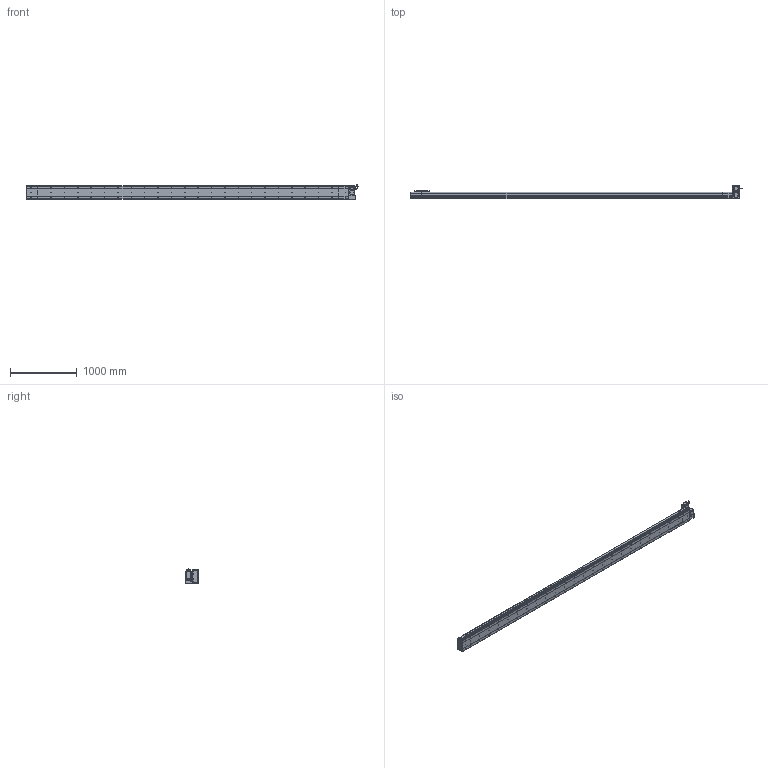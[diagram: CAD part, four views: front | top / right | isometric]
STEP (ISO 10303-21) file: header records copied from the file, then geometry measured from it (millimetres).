
FILE_DESCRIPTION (( 'STEP AP214' ), '1' );
FILE_NAME ('D20 CBH RT S4500.STEP', '2010-06-30T11:38:57', ( 'Conseil Régional Haute-Normandie' ), ( 'Conseil Régional Haute-Normandie' ), 'SwSTEP 2.0', 'SolidWorks 2010', '' );
FILE_SCHEMA (( 'AUTOMOTIVE_DESIGN' ));
Length unit declared in the file: millimetre
Products named in the file (31): Chariot D20_Default; Head RT_Default; D20 CBH RT S4500; Corp Tail D20 RT_Default; Plaque De Serrage D20 RT_Default; Plaque de Bout Head D20 RT_Default; Couvercle RT_Default; Support moteur RT_Default; codeur 90BLDC125-640; Corp S4500_Default; Tail D20+100_Default; Couvercle S4500_Default; Corp Tail D20+100_Default; Moteur motionking 90BLDC125A-640; Conecteur2_Default; avant 90BLDC125A-640; corps 90BLDC125A-640; vis M5 L15_Default; Plaque de Bout Tail D20_Default; Plaque De Serrage D20_Default; vis M5 L47_Default; Rondelle Cache D20 RT_Default; ecrou_Default; Support Chariot D20_Default; Corp D20 S4500_Default; Glissiere_Default; Cache Support Moteur RT_Default; Conecteur_Default; vis M5 L30_Default; Couvercle_Default
Assembly tree (68 placements, depth 4):
  D20 CBH RT S4500
    Head RT_Default
      vis M5 L15_Default  x14
      Rondelle Cache D20 RT_Default  x3
      ecrou_Default  x4
      Moteur motionking 90BLDC125A-640
        corps 90BLDC125A-640
        avant 90BLDC125A-640
        codeur 90BLDC125-640
        Conecteur2_Default
        Conecteur_Default
      Plaque De Serrage D20 RT_Default
      vis M5 L30_Default  x4
      Plaque de Bout Head D20 RT_Default
      vis M5 L47_Default  x4
      Cache Support Moteur RT_Default
      Couvercle RT_Default
      Support moteur RT_Default
      Corp Tail D20 RT_Default
    Tail D20+100_Default
      Couvercle_Default
      vis M5 L15_Default  x6
      Plaque de Bout Tail D20_Default
      Corp Tail D20+100_Default
      Plaque De Serrage D20_Default
    Chariot D20_Default
      vis M5 L15_Default  x8
      Glissiere_Default
      Support Chariot D20_Default
      Chariot D20_Default
    Corp D20 S4500_Default
      Couvercle S4500_Default
      Corp S4500_Default
Bounding box: 4964.45 x 206.5 x 229.7 mm (x, y, z)
Volume: 32717553.7 mm3; surface area: 6212897.2 mm2
Topology: 105 solids, 105 shells, 3937 faces, 9750 edges, 6334 vertices
Faces by surface type: plane 2170, bspline 806, cylinder 790, torus 95, cone 72, sphere 4
Entity records: 162710 total; most frequent: CARTESIAN_POINT 82853, ORIENTED_EDGE 15768, DIRECTION 12262, EDGE_CURVE 7884, VERTEX_POINT 5218, VECTOR 5032, LINE 5032, AXIS2_PLACEMENT_3D 3615
